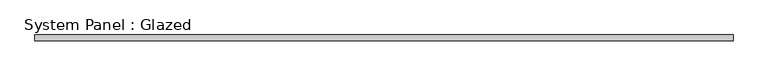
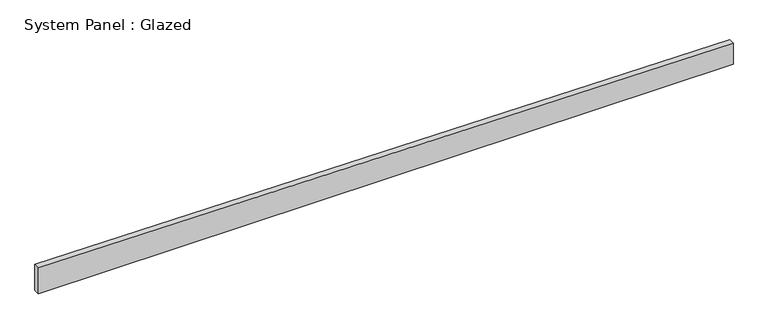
"""IFC4 building model written with IfcOpenShell, lengths in millimetres: plate geometry, System Panel : Glazed."""

from ifc_helpers import new_model, si_unit, frame, origin, place, context, project, spatial, polyline, outline, extrude, source, transform, mapped, element, save


def system_panel_glazed_a3844233(model_context):
    return source(origin(), model_context, "Body", "SweptSolid", [
        extrude(outline(polyline([(0.0, -1504.95), (0.0, 1504.95), (96.8269237, 1504.95), (118.5712268, -1504.95), (0.0, -1504.95)])), frame((0.0, 19.05, 0.0), z_axis=(0.0, 1.0, 0.0), x_axis=(0.0, 0.0, 1.0)), (0.0, 0.0, 1.0), 25.4),
    ])


if __name__ == "__main__":
    model = new_model("IFC4")
    model_context = context("Model", 3, world=origin())
    ifc_project = project(units=[si_unit("LENGTHUNIT", "METRE", prefix="MILLI")], contexts=[model_context])
    site = spatial("IfcSite", under=ifc_project)
    building = spatial("IfcBuilding", under=site)
    placement = place(None, origin())
    system_panel_glazed_shape = system_panel_glazed_a3844233(model_context)
    element("IfcPlate", 1, ObjectType="System Panel : Glazed", at=placement, inside=building, context=model_context, shape_type="MappedRepresentation", body=[
        mapped(system_panel_glazed_shape, transform((0.0, 0.0, 0.0), x_axis=(1.0, 0.0, 0.0), y_axis=(0.0, 1.0, 0.0), z_axis=(0.0, 0.0, 1.0))),
    ])
    save(model, "model.ifc")
